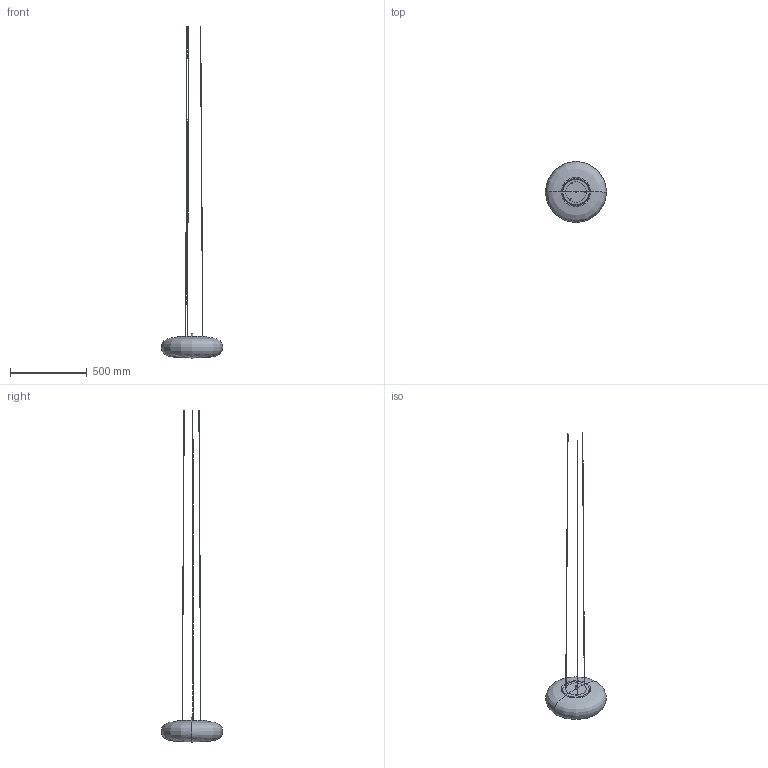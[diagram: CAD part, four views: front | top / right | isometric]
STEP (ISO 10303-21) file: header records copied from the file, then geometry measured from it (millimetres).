
FILE_DESCRIPTION(/* description */ (''),/* implementation_level */ '2;1');
FILE_NAME(/* name */ 'SNOWBALL40 P',/* time_stamp */ '2026-08-05T17:13:51+09:00',/* author */ (''),/* organization */ (''),/* preprocessor_version */ 'ST-DEVELOPER v19.2',/* originating_system */ 'Rhino 8.21',/* authorisation */ '');
FILE_SCHEMA (('CONFIG_CONTROL_DESIGN'));
Length unit declared in the file: millimetre
Products named in the file (1): Document
Bounding box: 399.85 x 400 x 2168.2 mm (x, y, z)
Surface area: 373343.1 mm2 (no closed solid volume)
Topology: 0 solids, 1 shells, 22 faces, 50 edges, 30 vertices
Faces by surface type: bspline 8, plane 8, cylinder 6
Entity records: 2117 total; most frequent: CARTESIAN_POINT 1635, ORIENTED_EDGE 94, DIRECTION 54, EDGE_CURVE 50, AXIS2_PLACEMENT_3D 34, VERTEX_POINT 30, EDGE_LOOP 25, ADVANCED_FACE 22
